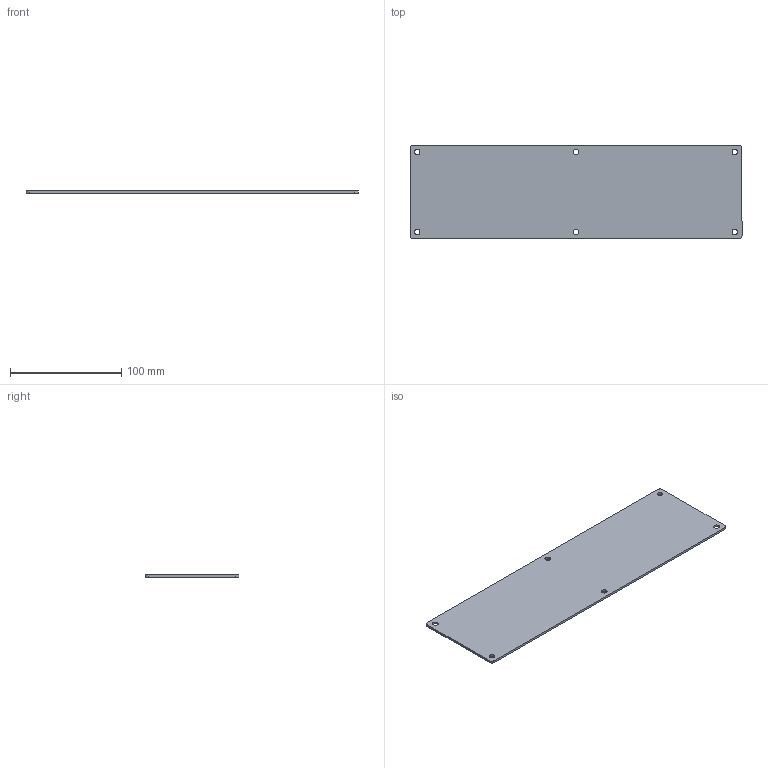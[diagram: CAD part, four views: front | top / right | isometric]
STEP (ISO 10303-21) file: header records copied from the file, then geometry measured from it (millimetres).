
FILE_DESCRIPTION (( 'STEP AP214' ), '1' );
FILE_NAME ('060PC.STEP', '2019-10-02T11:53:20', ( '' ), ( '' ), 'SwSTEP 2.0', 'SolidWorks 2013', '' );
FILE_SCHEMA (( 'AUTOMOTIVE_DESIGN' ));
Length unit declared in the file: millimetre
Products named in the file (1): 060PC
Bounding box: 299 x 84.5 x 2 mm (x, y, z)
Volume: 50279.9 mm3; surface area: 51992.1 mm2
Topology: 1 solids, 1 shells, 22 faces, 60 edges, 40 vertices
Faces by surface type: cylinder 16, plane 6
Entity records: 776 total; most frequent: DIRECTION 138, CARTESIAN_POINT 123, ORIENTED_EDGE 120, EDGE_CURVE 60, AXIS2_PLACEMENT_3D 55, VERTEX_POINT 40, EDGE_LOOP 34, CIRCLE 32
